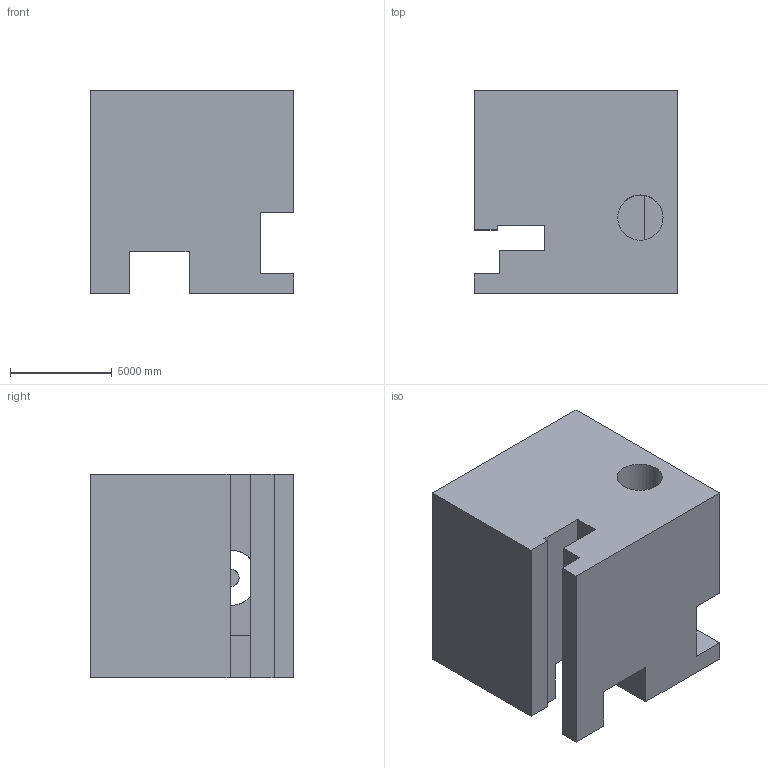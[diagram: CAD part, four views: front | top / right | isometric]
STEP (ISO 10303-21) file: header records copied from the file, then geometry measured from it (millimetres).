
FILE_DESCRIPTION (( 'STEP AP203' ), '1' );
FILE_NAME ('107.STEP', '2022-08-31T11:36:56', ( 'user' ), ( '' ), 'SwSTEP 2.0', 'SolidWorks 2021', '' );
FILE_SCHEMA (( 'CONFIG_CONTROL_DESIGN' ));
Length unit declared in the file: centimetre
Products named in the file (1): 107
Bounding box: 10000 x 10000 x 10000 mm (x, y, z)
Volume: 784496146835.4 mm3; surface area: 782664352 mm2
Topology: 1 solids, 1 shells, 39 faces, 120 edges, 80 vertices
Faces by surface type: plane 30, cylinder 9
Entity records: 2095 total; most frequent: CARTESIAN_POINT 936, ORIENTED_EDGE 240, DIRECTION 209, EDGE_CURVE 120, VECTOR 93, LINE 93, VERTEX_POINT 80, AXIS2_PLACEMENT_3D 58
